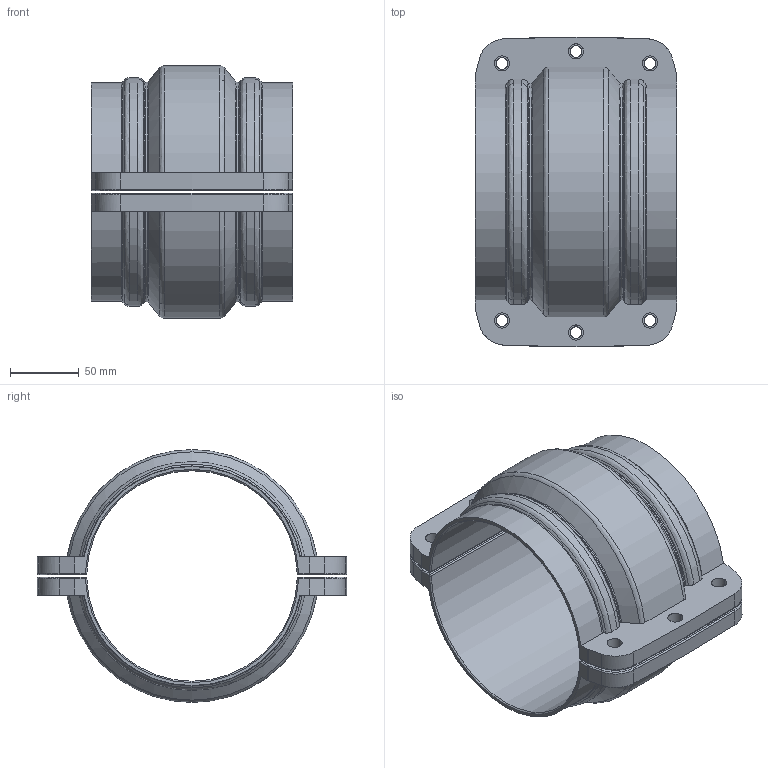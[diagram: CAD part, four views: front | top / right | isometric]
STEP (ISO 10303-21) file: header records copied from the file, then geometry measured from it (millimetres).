
FILE_DESCRIPTION((''),'2;1');
FILE_NAME('20159002_ASM_16_ASM','2017-05-15T',('Administrator'),(''),'PRO/ENGINEER BY PARAMETRIC TECHNOLOGY CORPORATION, 2009360','PRO/ENGINEER BY PARAMETRIC TECHNOLOGY CORPORATION, 2009360','');
FILE_SCHEMA(('AUTOMOTIVE_DESIGN_CC2 { 1 2 10303 214 -1 1 5 2 }'));
Length unit declared in the file: millimetre
Products named in the file (3): 201590020001_16; 201590020000_5; 20159002_ASM_16_ASM
Assembly tree (2 placements, depth 2):
  20159002_ASM_16_ASM
    201590020001_16
    201590020000_5
Bounding box: 147 x 225.96 x 184.4 mm (x, y, z)
Volume: 816263.3 mm3; surface area: 198655.2 mm2
Topology: 2 solids, 2 shells, 168 faces, 500 edges, 336 vertices
Faces by surface type: extrusion 60, revolution 28, bspline 28, cylinder 20, plane 20, cone 12
Entity records: 9431 total; most frequent: CARTESIAN_POINT 3421, ORIENTED_EDGE 1000, DIRECTION 742, PRESENTATION_STYLE_ASSIGNMENT 502, STYLED_ITEM 502, CURVE_STYLE 500, EDGE_CURVE 500, VERTEX_POINT 336
